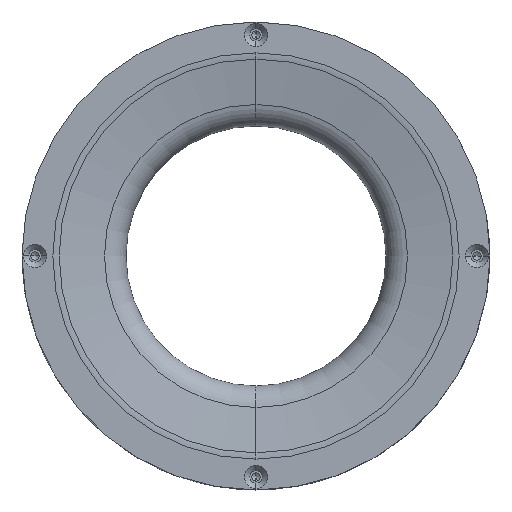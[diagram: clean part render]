
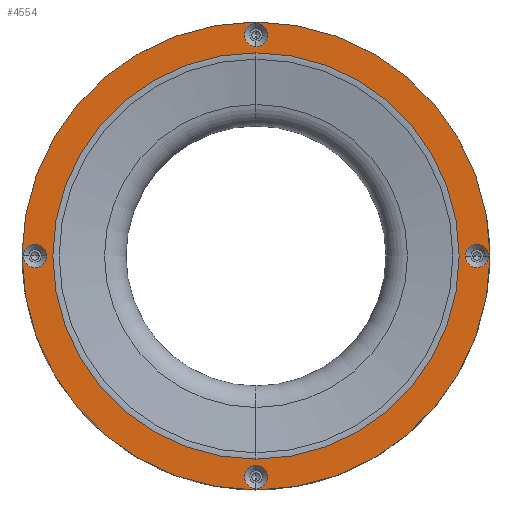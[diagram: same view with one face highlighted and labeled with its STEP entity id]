
A CAD part, front view. The second image highlights one B-rep face of the part: STEP entity #4554.
In plain terms, the highlighted planar face has unit normal (0, -1, 0).
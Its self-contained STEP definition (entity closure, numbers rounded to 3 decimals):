
#7 = AXIS2_PLACEMENT_3D ( 'NONE', #2231, #2643, #3533 ) ;
#51 = DIRECTION ( 'NONE',  ( 0., -1., 0. ) ) ;
#91 = ORIENTED_EDGE ( 'NONE', *, *, #3475, .F. ) ;
#96 = CARTESIAN_POINT ( 'NONE',  ( -44.75, 0., 0. ) ) ;
#100 = CIRCLE ( 'NONE', #1094, 2.25 ) ;
#212 = VERTEX_POINT ( 'NONE', #2625 ) ;
#213 = ORIENTED_EDGE ( 'NONE', *, *, #2519, .T. ) ;
#217 = EDGE_CURVE ( 'NONE', #2371, #3472, #365, .T. ) ;
#312 = ORIENTED_EDGE ( 'NONE', *, *, #1656, .T. ) ;
#335 = ORIENTED_EDGE ( 'NONE', *, *, #217, .F. ) ;
#365 = CIRCLE ( 'NONE', #1534, 2.25 ) ;
#426 = FACE_BOUND ( 'NONE', #2877, .T. ) ;
#566 = DIRECTION ( 'NONE',  ( 0., -1., 0. ) ) ;
#570 = CARTESIAN_POINT ( 'NONE',  ( -42.5, 0., 0. ) ) ;
#589 = ORIENTED_EDGE ( 'NONE', *, *, #4407, .F. ) ;
#730 = AXIS2_PLACEMENT_3D ( 'NONE', #570, #2230, #4523 ) ;
#794 = FACE_BOUND ( 'NONE', #5388, .T. ) ;
#806 = VERTEX_POINT ( 'NONE', #96 ) ;
#869 = CARTESIAN_POINT ( 'NONE',  ( -40.25, 0., 0. ) ) ;
#884 = PLANE ( 'NONE',  #4800 ) ;
#904 = CARTESIAN_POINT ( 'NONE',  ( 40.25, 0., 0. ) ) ;
#1062 = DIRECTION ( 'NONE',  ( 0., 0., -1. ) ) ;
#1079 = CARTESIAN_POINT ( 'NONE',  ( 0., 0., 0. ) ) ;
#1094 = AXIS2_PLACEMENT_3D ( 'NONE', #1485, #3230, #1062 ) ;
#1143 = CARTESIAN_POINT ( 'NONE',  ( 0., 0., -42.5 ) ) ;
#1362 = AXIS2_PLACEMENT_3D ( 'NONE', #1143, #566, #3715 ) ;
#1485 = CARTESIAN_POINT ( 'NONE',  ( 0., 0., 42.5 ) ) ;
#1496 = CARTESIAN_POINT ( 'NONE',  ( 0., 0., -42.5 ) ) ;
#1523 = AXIS2_PLACEMENT_3D ( 'NONE', #1079, #1528, #4551 ) ;
#1528 = DIRECTION ( 'NONE',  ( 0., 1., 0. ) ) ;
#1534 = AXIS2_PLACEMENT_3D ( 'NONE', #1771, #2683, #3543 ) ;
#1569 = VERTEX_POINT ( 'NONE', #1772 ) ;
#1612 = AXIS2_PLACEMENT_3D ( 'NONE', #1923, #4631, #2810 ) ;
#1656 = EDGE_CURVE ( 'NONE', #1569, #5149, #1676, .T. ) ;
#1676 = CIRCLE ( 'NONE', #3415, 39.069 ) ;
#1729 = CARTESIAN_POINT ( 'NONE',  ( 0., 0., -45. ) ) ;
#1749 = CARTESIAN_POINT ( 'NONE',  ( 0., 0., -40.25 ) ) ;
#1756 = FACE_BOUND ( 'NONE', #4958, .T. ) ;
#1771 = CARTESIAN_POINT ( 'NONE',  ( 42.5, 0., 0. ) ) ;
#1772 = CARTESIAN_POINT ( 'NONE',  ( 0., 0., -39.069 ) ) ;
#1828 = EDGE_CURVE ( 'NONE', #2545, #806, #2635, .T. ) ;
#1829 = DIRECTION ( 'NONE',  ( -1., 0., 0. ) ) ;
#1833 = CARTESIAN_POINT ( 'NONE',  ( 44.75, 0., 0. ) ) ;
#1856 = CARTESIAN_POINT ( 'NONE',  ( 0., 0., 39.069 ) ) ;
#1900 = CARTESIAN_POINT ( 'NONE',  ( -42.5, 0., 0. ) ) ;
#1903 = CIRCLE ( 'NONE', #3285, 39.069 ) ;
#1923 = CARTESIAN_POINT ( 'NONE',  ( 0., 0., 0. ) ) ;
#2230 = DIRECTION ( 'NONE',  ( 0., -1., 0. ) ) ;
#2231 = CARTESIAN_POINT ( 'NONE',  ( 0., 0., 42.5 ) ) ;
#2295 = VERTEX_POINT ( 'NONE', #3977 ) ;
#2358 = DIRECTION ( 'NONE',  ( 1., 0., 0. ) ) ;
#2371 = VERTEX_POINT ( 'NONE', #1833 ) ;
#2412 = EDGE_CURVE ( 'NONE', #3397, #3269, #4010, .T. ) ;
#2487 = ORIENTED_EDGE ( 'NONE', *, *, #2412, .F. ) ;
#2519 = EDGE_CURVE ( 'NONE', #5149, #1569, #1903, .T. ) ;
#2545 = VERTEX_POINT ( 'NONE', #869 ) ;
#2625 = CARTESIAN_POINT ( 'NONE',  ( 0., 0., 45. ) ) ;
#2635 = CIRCLE ( 'NONE', #730, 2.25 ) ;
#2640 = AXIS2_PLACEMENT_3D ( 'NONE', #1900, #4922, #2358 ) ;
#2643 = DIRECTION ( 'NONE',  ( 0., -1., 0. ) ) ;
#2683 = DIRECTION ( 'NONE',  ( 0., -1., 0. ) ) ;
#2708 = CIRCLE ( 'NONE', #1523, 45. ) ;
#2807 = EDGE_CURVE ( 'NONE', #806, #2545, #3924, .T. ) ;
#2810 = DIRECTION ( 'NONE',  ( 0., 0., 1. ) ) ;
#2816 = AXIS2_PLACEMENT_3D ( 'NONE', #4372, #51, #1829 ) ;
#2877 = EDGE_LOOP ( 'NONE', ( #2487, #4365 ) ) ;
#2915 = EDGE_LOOP ( 'NONE', ( #213, #312 ) ) ;
#2970 = CARTESIAN_POINT ( 'NONE',  ( 0., 0., 44.75 ) ) ;
#2983 = FACE_OUTER_BOUND ( 'NONE', #4345, .T. ) ;
#3081 = ORIENTED_EDGE ( 'NONE', *, *, #3160, .F. ) ;
#3094 = AXIS2_PLACEMENT_3D ( 'NONE', #1496, #3354, #5135 ) ;
#3160 = EDGE_CURVE ( 'NONE', #5216, #2295, #3817, .T. ) ;
#3230 = DIRECTION ( 'NONE',  ( 0., -1., 0. ) ) ;
#3269 = VERTEX_POINT ( 'NONE', #4526 ) ;
#3285 = AXIS2_PLACEMENT_3D ( 'NONE', #4252, #5127, #4336 ) ;
#3315 = EDGE_CURVE ( 'NONE', #3269, #3397, #3548, .T. ) ;
#3354 = DIRECTION ( 'NONE',  ( 0., -1., 0. ) ) ;
#3397 = VERTEX_POINT ( 'NONE', #1749 ) ;
#3415 = AXIS2_PLACEMENT_3D ( 'NONE', #3576, #5244, #3546 ) ;
#3419 = FACE_BOUND ( 'NONE', #4627, .T. ) ;
#3472 = VERTEX_POINT ( 'NONE', #904 ) ;
#3475 = EDGE_CURVE ( 'NONE', #3472, #2371, #5267, .T. ) ;
#3493 = EDGE_CURVE ( 'NONE', #2295, #5216, #100, .T. ) ;
#3505 = CARTESIAN_POINT ( 'NONE',  ( 0., 0., 0. ) ) ;
#3533 = DIRECTION ( 'NONE',  ( 0., 0., -1. ) ) ;
#3543 = DIRECTION ( 'NONE',  ( -1., 0., 0. ) ) ;
#3546 = DIRECTION ( 'NONE',  ( 0., 0., 1. ) ) ;
#3548 = CIRCLE ( 'NONE', #3094, 2.25 ) ;
#3576 = CARTESIAN_POINT ( 'NONE',  ( 0., 0., 0. ) ) ;
#3715 = DIRECTION ( 'NONE',  ( 0., 0., 1. ) ) ;
#3719 = ORIENTED_EDGE ( 'NONE', *, *, #4485, .F. ) ;
#3725 = ORIENTED_EDGE ( 'NONE', *, *, #2807, .F. ) ;
#3817 = CIRCLE ( 'NONE', #7, 2.25 ) ;
#3844 = FACE_BOUND ( 'NONE', #2915, .T. ) ;
#3871 = DIRECTION ( 'NONE',  ( 0., 0., -1. ) ) ;
#3909 = ORIENTED_EDGE ( 'NONE', *, *, #1828, .F. ) ;
#3924 = CIRCLE ( 'NONE', #2640, 2.25 ) ;
#3977 = CARTESIAN_POINT ( 'NONE',  ( 0., 0., 40.25 ) ) ;
#4010 = CIRCLE ( 'NONE', #1362, 2.25 ) ;
#4072 = CIRCLE ( 'NONE', #1612, 45. ) ;
#4252 = CARTESIAN_POINT ( 'NONE',  ( 0., 0., 0. ) ) ;
#4268 = DIRECTION ( 'NONE',  ( 0., -1., 0. ) ) ;
#4336 = DIRECTION ( 'NONE',  ( 0., 0., 1. ) ) ;
#4345 = EDGE_LOOP ( 'NONE', ( #589, #3719 ) ) ;
#4365 = ORIENTED_EDGE ( 'NONE', *, *, #3315, .F. ) ;
#4372 = CARTESIAN_POINT ( 'NONE',  ( 42.5, 0., 0. ) ) ;
#4407 = EDGE_CURVE ( 'NONE', #212, #4600, #2708, .T. ) ;
#4485 = EDGE_CURVE ( 'NONE', #4600, #212, #4072, .T. ) ;
#4523 = DIRECTION ( 'NONE',  ( 1., 0., 0. ) ) ;
#4526 = CARTESIAN_POINT ( 'NONE',  ( 0., 0., -44.75 ) ) ;
#4551 = DIRECTION ( 'NONE',  ( 0., 0., 1. ) ) ;
#4554 = ADVANCED_FACE ( 'NONE', ( #1756, #426, #3419, #794, #3844, #2983 ), #884, .T. ) ;
#4600 = VERTEX_POINT ( 'NONE', #1729 ) ;
#4627 = EDGE_LOOP ( 'NONE', ( #3909, #3725 ) ) ;
#4631 = DIRECTION ( 'NONE',  ( 0., 1., 0. ) ) ;
#4655 = ORIENTED_EDGE ( 'NONE', *, *, #3493, .F. ) ;
#4800 = AXIS2_PLACEMENT_3D ( 'NONE', #3505, #4268, #3871 ) ;
#4922 = DIRECTION ( 'NONE',  ( 0., -1., 0. ) ) ;
#4958 = EDGE_LOOP ( 'NONE', ( #91, #335 ) ) ;
#5127 = DIRECTION ( 'NONE',  ( 0., 1., 0. ) ) ;
#5135 = DIRECTION ( 'NONE',  ( 0., 0., 1. ) ) ;
#5149 = VERTEX_POINT ( 'NONE', #1856 ) ;
#5216 = VERTEX_POINT ( 'NONE', #2970 ) ;
#5244 = DIRECTION ( 'NONE',  ( 0., 1., 0. ) ) ;
#5267 = CIRCLE ( 'NONE', #2816, 2.25 ) ;
#5388 = EDGE_LOOP ( 'NONE', ( #4655, #3081 ) ) ;
